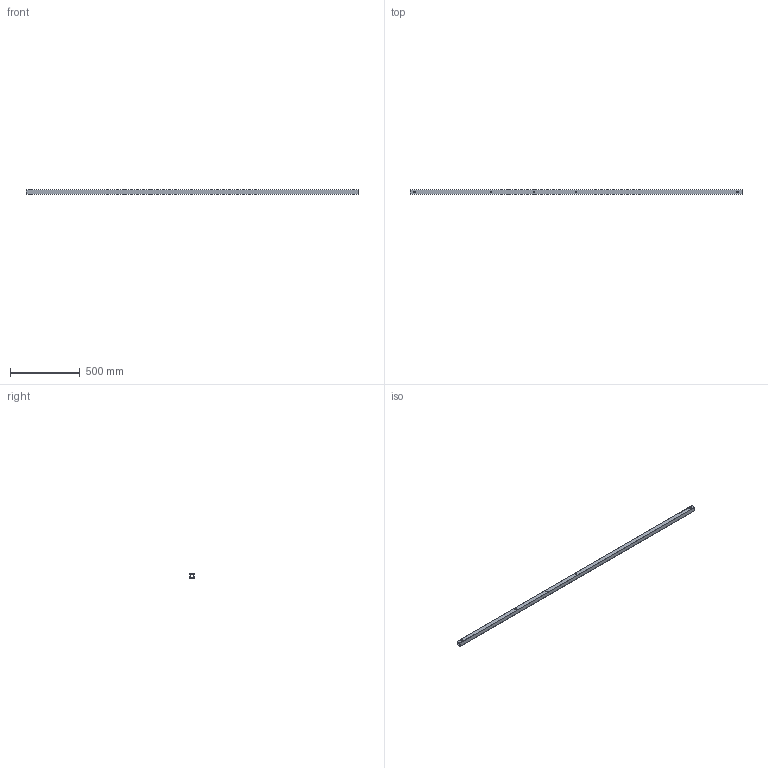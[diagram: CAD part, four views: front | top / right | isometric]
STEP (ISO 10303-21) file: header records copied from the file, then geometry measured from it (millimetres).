
FILE_DESCRIPTION(/* description */ (''),/* implementation_level */ '2;1');
FILE_NAME(/* name */ '2020TOMO-PAV-Barra3_v4.stp',/* time_stamp */ '2022-05-16T13:55:53+02:00',/* author */ (''),/* organization */ (''),/* preprocessor_version */ 'ST-DEVELOPER v18.102',/* originating_system */ 'SIEMENS PLM Software NX 2000',/* authorisation */ '');
FILE_SCHEMA (('AUTOMOTIVE_DESIGN { 1 0 10303 214 3 1 1 1 }'));
Length unit declared in the file: millimetre
Products named in the file (1): turc3144724Fyygf
Bounding box: 2380 x 30 x 30 mm (x, y, z)
Volume: 405283.5 mm3; surface area: 541285.5 mm2
Topology: 1 solids, 1 shells, 20 faces, 59 edges, 41 vertices
Faces by surface type: plane 10, cylinder 10
Full cylindrical faces by diameter (mm): 12 x10
Entity records: 664 total; most frequent: DIRECTION 106, CARTESIAN_POINT 101, ORIENTED_EDGE 88, EDGE_LOOP 52, FACE_BOUND 48, EDGE_CURVE 44, AXIS2_PLACEMENT_3D 41, VERTEX_POINT 36
